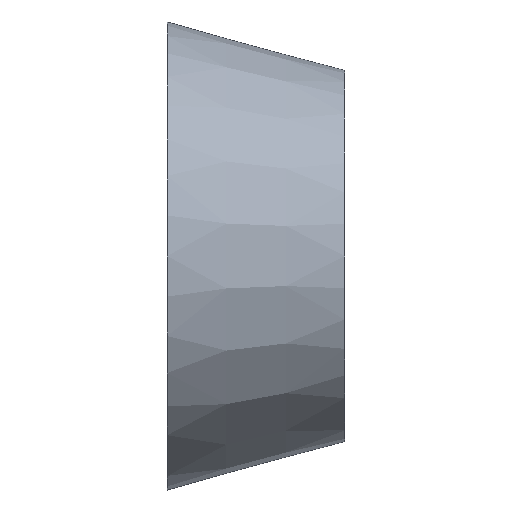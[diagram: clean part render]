
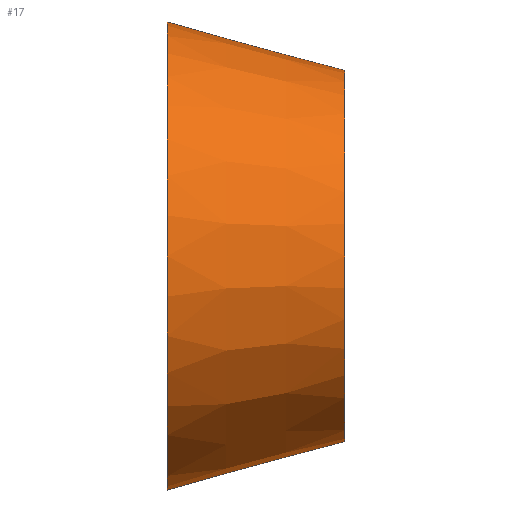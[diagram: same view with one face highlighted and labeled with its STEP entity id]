
A CAD part, front view. The second image highlights one B-rep face of the part: STEP entity #17.
In plain terms, the highlighted conical face has half-angle 15.255 degrees and reference radius 14.5 mm.
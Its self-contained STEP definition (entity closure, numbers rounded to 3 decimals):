
#17 = ADVANCED_FACE('',(#18),#31,.T.);
#18 = FACE_BOUND('',#19,.T.);
#19 = EDGE_LOOP('',(#20,#54,#74,#101));
#20 = ORIENTED_EDGE('',*,*,#21,.T.);
#21 = EDGE_CURVE('',#22,#22,#24,.T.);
#22 = VERTEX_POINT('',#23);
#23 = CARTESIAN_POINT('',(0.,14.5,0.));
#24 = SURFACE_CURVE('',#25,(#30,#42),.PCURVE_S1.);
#25 = CIRCLE('',#26,14.5);
#26 = AXIS2_PLACEMENT_3D('',#27,#28,#29);
#27 = CARTESIAN_POINT('',(0.,0.,0.));
#28 = DIRECTION('',(1.,0.,0.));
#29 = DIRECTION('',(0.,1.,0.));
#30 = PCURVE('',#31,#36);
#31 = CONICAL_SURFACE('',#32,14.5,0.266);
#32 = AXIS2_PLACEMENT_3D('',#33,#34,#35);
#33 = CARTESIAN_POINT('',(0.,0.,0.));
#34 = DIRECTION('',(-1.,-0.,-0.));
#35 = DIRECTION('',(0.,1.,0.));
#36 = DEFINITIONAL_REPRESENTATION('',(#37),#41);
#37 = LINE('',#38,#39);
#38 = CARTESIAN_POINT('',(-0.,-0.));
#39 = VECTOR('',#40,1.);
#40 = DIRECTION('',(-1.,-0.));
#41 = ( GEOMETRIC_REPRESENTATION_CONTEXT(2) 
PARAMETRIC_REPRESENTATION_CONTEXT() REPRESENTATION_CONTEXT('2D SPACE',''
  ) );
#42 = PCURVE('',#43,#48);
#43 = PLANE('',#44);
#44 = AXIS2_PLACEMENT_3D('',#45,#46,#47);
#45 = CARTESIAN_POINT('',(0.,0.,0.));
#46 = DIRECTION('',(1.,0.,0.));
#47 = DIRECTION('',(0.,1.,0.));
#48 = DEFINITIONAL_REPRESENTATION('',(#49),#53);
#49 = CIRCLE('',#50,14.5);
#50 = AXIS2_PLACEMENT_2D('',#51,#52);
#51 = CARTESIAN_POINT('',(0.,0.));
#52 = DIRECTION('',(1.,0.));
#53 = ( GEOMETRIC_REPRESENTATION_CONTEXT(2) 
PARAMETRIC_REPRESENTATION_CONTEXT() REPRESENTATION_CONTEXT('2D SPACE',''
  ) );
#54 = ORIENTED_EDGE('',*,*,#55,.T.);
#55 = EDGE_CURVE('',#22,#56,#58,.T.);
#56 = VERTEX_POINT('',#57);
#57 = CARTESIAN_POINT('',(11.,11.5,0.));
#58 = SEAM_CURVE('',#59,(#62,#68),.PCURVE_S1.);
#59 = B_SPLINE_CURVE_WITH_KNOTS('',1,(#60,#61),.UNSPECIFIED.,.F.,.F.,(2,
    2),(0.,1.),.PIECEWISE_BEZIER_KNOTS.);
#60 = CARTESIAN_POINT('',(0.,14.5,0.));
#61 = CARTESIAN_POINT('',(11.,11.5,0.));
#62 = PCURVE('',#31,#63);
#63 = DEFINITIONAL_REPRESENTATION('',(#64),#67);
#64 = B_SPLINE_CURVE_WITH_KNOTS('',1,(#65,#66),.UNSPECIFIED.,.F.,.F.,(2,
    2),(0.,1.),.PIECEWISE_BEZIER_KNOTS.);
#65 = CARTESIAN_POINT('',(-6.283,0.));
#66 = CARTESIAN_POINT('',(-6.283,-11.));
#67 = ( GEOMETRIC_REPRESENTATION_CONTEXT(2) 
PARAMETRIC_REPRESENTATION_CONTEXT() REPRESENTATION_CONTEXT('2D SPACE',''
  ) );
#68 = PCURVE('',#31,#69);
#69 = DEFINITIONAL_REPRESENTATION('',(#70),#73);
#70 = B_SPLINE_CURVE_WITH_KNOTS('',1,(#71,#72),.UNSPECIFIED.,.F.,.F.,(2,
    2),(0.,1.),.PIECEWISE_BEZIER_KNOTS.);
#71 = CARTESIAN_POINT('',(0.,0.));
#72 = CARTESIAN_POINT('',(0.,-11.));
#73 = ( GEOMETRIC_REPRESENTATION_CONTEXT(2) 
PARAMETRIC_REPRESENTATION_CONTEXT() REPRESENTATION_CONTEXT('2D SPACE',''
  ) );
#74 = ORIENTED_EDGE('',*,*,#75,.F.);
#75 = EDGE_CURVE('',#56,#56,#76,.T.);
#76 = SURFACE_CURVE('',#77,(#82,#89),.PCURVE_S1.);
#77 = CIRCLE('',#78,11.5);
#78 = AXIS2_PLACEMENT_3D('',#79,#80,#81);
#79 = CARTESIAN_POINT('',(11.,0.,0.));
#80 = DIRECTION('',(1.,0.,0.));
#81 = DIRECTION('',(0.,1.,0.));
#82 = PCURVE('',#31,#83);
#83 = DEFINITIONAL_REPRESENTATION('',(#84),#88);
#84 = LINE('',#85,#86);
#85 = CARTESIAN_POINT('',(-0.,-11.));
#86 = VECTOR('',#87,1.);
#87 = DIRECTION('',(-1.,-0.));
#88 = ( GEOMETRIC_REPRESENTATION_CONTEXT(2) 
PARAMETRIC_REPRESENTATION_CONTEXT() REPRESENTATION_CONTEXT('2D SPACE',''
  ) );
#89 = PCURVE('',#90,#95);
#90 = PLANE('',#91);
#91 = AXIS2_PLACEMENT_3D('',#92,#93,#94);
#92 = CARTESIAN_POINT('',(11.,0.,0.));
#93 = DIRECTION('',(1.,0.,0.));
#94 = DIRECTION('',(0.,1.,0.));
#95 = DEFINITIONAL_REPRESENTATION('',(#96),#100);
#96 = CIRCLE('',#97,11.5);
#97 = AXIS2_PLACEMENT_2D('',#98,#99);
#98 = CARTESIAN_POINT('',(0.,0.));
#99 = DIRECTION('',(1.,0.));
#100 = ( GEOMETRIC_REPRESENTATION_CONTEXT(2) 
PARAMETRIC_REPRESENTATION_CONTEXT() REPRESENTATION_CONTEXT('2D SPACE',''
  ) );
#101 = ORIENTED_EDGE('',*,*,#55,.F.);
